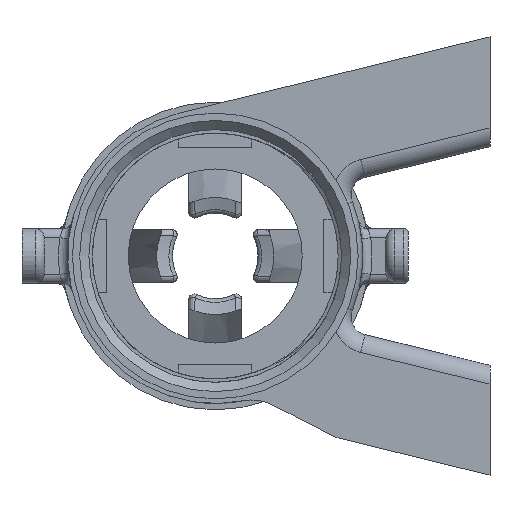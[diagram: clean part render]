
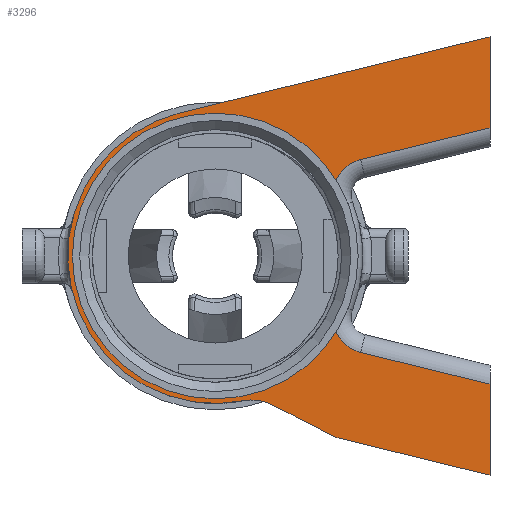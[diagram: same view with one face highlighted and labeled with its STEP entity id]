
A CAD part, left-side view. The second image highlights one B-rep face of the part: STEP entity #3296.
In plain terms, the highlighted planar face has unit normal (-1, 0, 0).
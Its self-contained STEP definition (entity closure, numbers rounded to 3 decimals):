
#159=PLANE('',#3639);
#352=FACE_OUTER_BOUND('',#566,.T.);
#566=EDGE_LOOP('',(#2884,#2885,#2886,#2887,#2888,#2889,#2890,#2891,#2892,
#2893,#2894,#2895,#2896,#2897));
#714=CIRCLE('',#3565,4.);
#720=CIRCLE('',#3575,4.);
#754=CIRCLE('',#3638,5.);
#755=CIRCLE('',#3640,16.1);
#756=CIRCLE('',#3641,5.);
#757=CIRCLE('',#3642,14.1);
#758=CIRCLE('',#3643,14.1);
#1039=LINE('',#10357,#1191);
#1044=LINE('',#10367,#1196);
#1051=LINE('',#10391,#1203);
#1057=LINE('',#10445,#1209);
#1066=LINE('',#10485,#1218);
#1067=LINE('',#10490,#1219);
#1068=LINE('',#10491,#1220);
#1191=VECTOR('',#4284,10.);
#1196=VECTOR('',#4295,10.);
#1203=VECTOR('',#4318,10.);
#1209=VECTOR('',#4352,10.);
#1218=VECTOR('',#4401,10.);
#1219=VECTOR('',#4406,10.);
#1220=VECTOR('',#4407,10.);
#1465=VERTEX_POINT('',#10300);
#1466=VERTEX_POINT('',#10302);
#1473=VERTEX_POINT('',#10321);
#1474=VERTEX_POINT('',#10322);
#1484=VERTEX_POINT('',#10355);
#1485=VERTEX_POINT('',#10363);
#1495=VERTEX_POINT('',#10390);
#1508=VERTEX_POINT('',#10443);
#1517=VERTEX_POINT('',#10478);
#1518=VERTEX_POINT('',#10480);
#1519=VERTEX_POINT('',#10484);
#1520=VERTEX_POINT('',#10486);
#1521=VERTEX_POINT('',#10488);
#1522=VERTEX_POINT('',#10492);
#1907=EDGE_CURVE('',#1465,#1466,#714,.T.);
#1916=EDGE_CURVE('',#1473,#1474,#720,.T.);
#1934=EDGE_CURVE('',#1484,#1473,#1039,.T.);
#1940=EDGE_CURVE('',#1466,#1485,#1044,.T.);
#1952=EDGE_CURVE('',#1495,#1485,#1051,.T.);
#1970=EDGE_CURVE('',#1484,#1508,#1057,.T.);
#1986=EDGE_CURVE('',#1517,#1518,#754,.T.);
#1988=EDGE_CURVE('',#1508,#1519,#1066,.T.);
#1989=EDGE_CURVE('',#1520,#1519,#755,.T.);
#1990=EDGE_CURVE('',#1521,#1520,#756,.T.);
#1991=EDGE_CURVE('',#1521,#1518,#1067,.T.);
#1992=EDGE_CURVE('',#1517,#1495,#1068,.T.);
#1993=EDGE_CURVE('',#1522,#1465,#757,.T.);
#1994=EDGE_CURVE('',#1474,#1522,#758,.T.);
#2884=ORIENTED_EDGE('',*,*,#1934,.F.);
#2885=ORIENTED_EDGE('',*,*,#1970,.T.);
#2886=ORIENTED_EDGE('',*,*,#1988,.T.);
#2887=ORIENTED_EDGE('',*,*,#1989,.F.);
#2888=ORIENTED_EDGE('',*,*,#1990,.F.);
#2889=ORIENTED_EDGE('',*,*,#1991,.T.);
#2890=ORIENTED_EDGE('',*,*,#1986,.F.);
#2891=ORIENTED_EDGE('',*,*,#1992,.T.);
#2892=ORIENTED_EDGE('',*,*,#1952,.T.);
#2893=ORIENTED_EDGE('',*,*,#1940,.F.);
#2894=ORIENTED_EDGE('',*,*,#1907,.F.);
#2895=ORIENTED_EDGE('',*,*,#1993,.F.);
#2896=ORIENTED_EDGE('',*,*,#1994,.F.);
#2897=ORIENTED_EDGE('',*,*,#1916,.F.);
#3296=ADVANCED_FACE('',(#352),#159,.F.);
#3565=AXIS2_PLACEMENT_3D('',#10303,#4218,#4219);
#3575=AXIS2_PLACEMENT_3D('',#10323,#4240,#4241);
#3638=AXIS2_PLACEMENT_3D('',#10481,#4396,#4397);
#3639=AXIS2_PLACEMENT_3D('',#10483,#4399,#4400);
#3640=AXIS2_PLACEMENT_3D('',#10487,#4402,#4403);
#3641=AXIS2_PLACEMENT_3D('',#10489,#4404,#4405);
#3642=AXIS2_PLACEMENT_3D('',#10493,#4408,#4409);
#3643=AXIS2_PLACEMENT_3D('',#10494,#4410,#4411);
#4218=DIRECTION('center_axis',(-1.,0.,0.));
#4219=DIRECTION('ref_axis',(0.,0.888,-0.459));
#4240=DIRECTION('center_axis',(-1.,0.,0.));
#4241=DIRECTION('ref_axis',(0.,0.888,0.459));
#4284=DIRECTION('',(0.,0.971,-0.238));
#4295=DIRECTION('',(0.,-0.971,-0.238));
#4318=DIRECTION('',(0.,0.,1.));
#4352=DIRECTION('',(0.,0.,1.));
#4396=DIRECTION('center_axis',(1.,0.,0.));
#4397=DIRECTION('ref_axis',(0.,0.351,-0.936));
#4399=DIRECTION('center_axis',(1.,0.,0.));
#4400=DIRECTION('ref_axis',(0.,0.,-1.));
#4401=DIRECTION('',(0.,0.971,-0.238));
#4402=DIRECTION('center_axis',(1.,0.,0.));
#4403=DIRECTION('ref_axis',(0.,0.,-1.));
#4404=DIRECTION('center_axis',(-1.,0.,0.));
#4405=DIRECTION('ref_axis',(0.,-0.143,0.99));
#4406=DIRECTION('',(0.,-0.888,-0.459));
#4407=DIRECTION('',(0.,-0.971,-0.238));
#4408=DIRECTION('center_axis',(-1.,0.,0.));
#4409=DIRECTION('ref_axis',(0.,0.,1.));
#4410=DIRECTION('center_axis',(-1.,0.,0.));
#4411=DIRECTION('ref_axis',(0.,0.,1.));
#10300=CARTESIAN_POINT('',(-64.,-13.116,-5.175));
#10302=CARTESIAN_POINT('',(-64.,-15.885,-10.528));
#10303=CARTESIAN_POINT('Origin',(-64.,-16.837,-6.643));
#10321=CARTESIAN_POINT('',(-64.,-15.885,10.528));
#10322=CARTESIAN_POINT('',(-64.,-13.116,5.175));
#10323=CARTESIAN_POINT('Origin',(-64.,-16.837,6.643));
#10355=CARTESIAN_POINT('',(-64.,-30.,13.987));
#10357=CARTESIAN_POINT('',(-64.,-5.981,8.101));
#10363=CARTESIAN_POINT('',(-64.,-30.,-13.987));
#10367=CARTESIAN_POINT('',(-64.,-13.995,-10.065));
#10390=CARTESIAN_POINT('',(-64.,-30.,-23.928));
#10391=CARTESIAN_POINT('',(-64.,-30.,-11.964));
#10443=CARTESIAN_POINT('',(-64.,-30.,23.928));
#10445=CARTESIAN_POINT('',(-64.,-30.,5.964));
#10478=CARTESIAN_POINT('',(-64.,-13.661,-19.924));
#10480=CARTESIAN_POINT('',(-64.,-12.556,-19.51));
#10481=CARTESIAN_POINT('Origin',(-64.,-14.851,-15.068));
#10483=CARTESIAN_POINT('Origin',(-64.,0.,0.));
#10484=CARTESIAN_POINT('',(-64.,3.832,15.637));
#10485=CARTESIAN_POINT('',(-64.,-19.256,21.295));
#10486=CARTESIAN_POINT('',(-64.,-3.053,-15.808));
#10487=CARTESIAN_POINT('Origin',(-64.,0.,0.));
#10488=CARTESIAN_POINT('',(-64.,-6.296,-16.275));
#10489=CARTESIAN_POINT('Origin',(-64.,-4.001,-20.717));
#10490=CARTESIAN_POINT('',(-64.,-3.887,-15.03));
#10491=CARTESIAN_POINT('',(-64.,-2.34,-17.15));
#10492=CARTESIAN_POINT('',(-64.,0.,-14.1));
#10493=CARTESIAN_POINT('Origin',(-64.,0.,0.));
#10494=CARTESIAN_POINT('Origin',(-64.,0.,0.));
